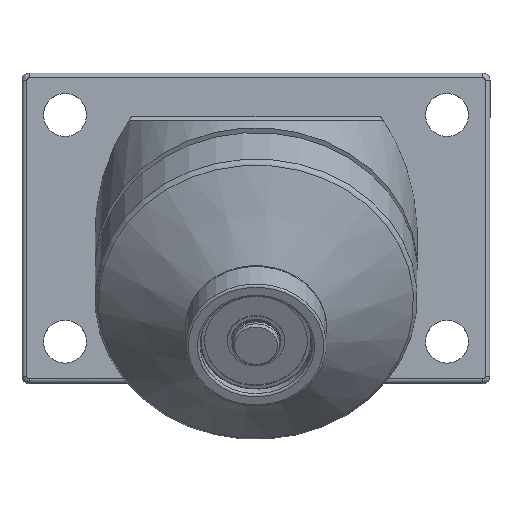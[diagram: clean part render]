
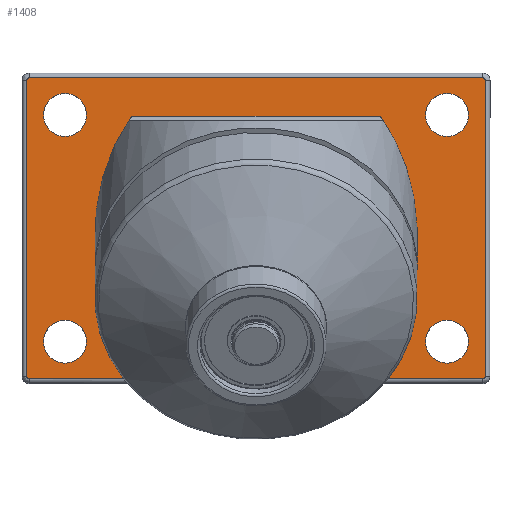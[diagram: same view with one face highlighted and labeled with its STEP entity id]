
A CAD part, top view. The second image highlights one B-rep face of the part: STEP entity #1408.
In plain terms, the highlighted planar face has unit normal (0, 0, 1).
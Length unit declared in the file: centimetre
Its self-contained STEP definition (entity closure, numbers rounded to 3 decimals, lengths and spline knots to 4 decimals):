
#14=LINE('',#2507,#39);
#16=LINE('',#2530,#41);
#17=LINE('',#2534,#42);
#18=LINE('',#2538,#43);
#19=LINE('',#2542,#44);
#20=LINE('',#2546,#45);
#39=VECTOR('',#1885,10.4136);
#41=VECTOR('',#1895,5.2336);
#42=VECTOR('',#1898,12.4);
#43=VECTOR('',#1901,19.);
#44=VECTOR('',#1904,12.4);
#45=VECTOR('',#1907,5.2336);
#65=ELLIPSE('',#1568,7.7942,6.75);
#66=ELLIPSE('',#1569,7.7942,6.75);
#67=ELLIPSE('',#1570,7.7942,6.75);
#68=ELLIPSE('',#1575,7.7942,6.75);
#166=PLANE('',#1567);
#229=FACE_BOUND('',#474,.T.);
#230=FACE_BOUND('',#475,.T.);
#231=FACE_BOUND('',#476,.T.);
#232=FACE_BOUND('',#477,.T.);
#320=FACE_OUTER_BOUND('',#473,.T.);
#473=EDGE_LOOP('',(#1051,#1052,#1053,#1054,#1055,#1056,#1057,#1058,#1059,
#1060,#1061,#1062,#1063,#1064));
#474=EDGE_LOOP('',(#1065));
#475=EDGE_LOOP('',(#1066));
#476=EDGE_LOOP('',(#1067));
#477=EDGE_LOOP('',(#1068));
#614=CIRCLE('',#1571,0.1);
#615=CIRCLE('',#1572,0.1);
#616=CIRCLE('',#1573,0.1);
#617=CIRCLE('',#1574,0.1);
#618=CIRCLE('',#1576,0.9);
#619=CIRCLE('',#1577,0.9);
#620=CIRCLE('',#1578,0.9);
#621=CIRCLE('',#1579,0.9);
#721=VERTEX_POINT('',#2493);
#722=VERTEX_POINT('',#2506);
#724=VERTEX_POINT('',#2523);
#725=VERTEX_POINT('',#2525);
#726=VERTEX_POINT('',#2527);
#727=VERTEX_POINT('',#2529);
#728=VERTEX_POINT('',#2531);
#729=VERTEX_POINT('',#2533);
#730=VERTEX_POINT('',#2535);
#731=VERTEX_POINT('',#2537);
#732=VERTEX_POINT('',#2539);
#733=VERTEX_POINT('',#2541);
#734=VERTEX_POINT('',#2543);
#735=VERTEX_POINT('',#2545);
#736=VERTEX_POINT('',#2548);
#737=VERTEX_POINT('',#2550);
#738=VERTEX_POINT('',#2552);
#739=VERTEX_POINT('',#2554);
#846=EDGE_CURVE('',#721,#722,#14,.T.);
#849=EDGE_CURVE('',#722,#724,#65,.T.);
#850=EDGE_CURVE('',#725,#721,#66,.T.);
#851=EDGE_CURVE('',#725,#726,#67,.T.);
#852=EDGE_CURVE('',#727,#726,#16,.T.);
#853=EDGE_CURVE('',#728,#727,#614,.T.);
#854=EDGE_CURVE('',#729,#728,#17,.T.);
#855=EDGE_CURVE('',#730,#729,#615,.T.);
#856=EDGE_CURVE('',#731,#730,#18,.T.);
#857=EDGE_CURVE('',#732,#731,#616,.T.);
#858=EDGE_CURVE('',#733,#732,#19,.T.);
#859=EDGE_CURVE('',#734,#733,#617,.T.);
#860=EDGE_CURVE('',#735,#734,#20,.T.);
#861=EDGE_CURVE('',#735,#724,#68,.T.);
#862=EDGE_CURVE('',#736,#736,#618,.T.);
#863=EDGE_CURVE('',#737,#737,#619,.T.);
#864=EDGE_CURVE('',#738,#738,#620,.T.);
#865=EDGE_CURVE('',#739,#739,#621,.T.);
#1051=ORIENTED_EDGE('',*,*,#849,.F.);
#1052=ORIENTED_EDGE('',*,*,#846,.F.);
#1053=ORIENTED_EDGE('',*,*,#850,.F.);
#1054=ORIENTED_EDGE('',*,*,#851,.T.);
#1055=ORIENTED_EDGE('',*,*,#852,.F.);
#1056=ORIENTED_EDGE('',*,*,#853,.F.);
#1057=ORIENTED_EDGE('',*,*,#854,.F.);
#1058=ORIENTED_EDGE('',*,*,#855,.F.);
#1059=ORIENTED_EDGE('',*,*,#856,.F.);
#1060=ORIENTED_EDGE('',*,*,#857,.F.);
#1061=ORIENTED_EDGE('',*,*,#858,.F.);
#1062=ORIENTED_EDGE('',*,*,#859,.F.);
#1063=ORIENTED_EDGE('',*,*,#860,.F.);
#1064=ORIENTED_EDGE('',*,*,#861,.T.);
#1065=ORIENTED_EDGE('',*,*,#862,.T.);
#1066=ORIENTED_EDGE('',*,*,#863,.T.);
#1067=ORIENTED_EDGE('',*,*,#864,.T.);
#1068=ORIENTED_EDGE('',*,*,#865,.T.);
#1408=ADVANCED_FACE('',(#320,#229,#230,#231,#232),#166,.T.);
#1567=AXIS2_PLACEMENT_3D('',#2522,#1887,#1888);
#1568=AXIS2_PLACEMENT_3D('',#2524,#1889,#1890);
#1569=AXIS2_PLACEMENT_3D('',#2526,#1891,#1892);
#1570=AXIS2_PLACEMENT_3D('',#2528,#1893,#1894);
#1571=AXIS2_PLACEMENT_3D('',#2532,#1896,#1897);
#1572=AXIS2_PLACEMENT_3D('',#2536,#1899,#1900);
#1573=AXIS2_PLACEMENT_3D('',#2540,#1902,#1903);
#1574=AXIS2_PLACEMENT_3D('',#2544,#1905,#1906);
#1575=AXIS2_PLACEMENT_3D('',#2547,#1908,#1909);
#1576=AXIS2_PLACEMENT_3D('',#2549,#1910,#1911);
#1577=AXIS2_PLACEMENT_3D('',#2551,#1912,#1913);
#1578=AXIS2_PLACEMENT_3D('',#2553,#1914,#1915);
#1579=AXIS2_PLACEMENT_3D('',#2555,#1916,#1917);
#1885=DIRECTION('',(-1.,0.,0.));
#1887=DIRECTION('center_axis',(0.,0.,
1.));
#1888=DIRECTION('ref_axis',(0.,-1.,0.));
#1889=DIRECTION('center_axis',(0.,0.,
1.));
#1890=DIRECTION('ref_axis',(0.,1.,0.));
#1891=DIRECTION('center_axis',(0.,0.,
1.));
#1892=DIRECTION('ref_axis',(0.,1.,0.));
#1893=DIRECTION('center_axis',(0.,0.,
-1.));
#1894=DIRECTION('ref_axis',(0.,-1.,0.));
#1895=DIRECTION('',(-1.,0.,0.));
#1896=DIRECTION('center_axis',(0.,0.,
-1.));
#1897=DIRECTION('ref_axis',(0.707,-0.707,0.));
#1898=DIRECTION('',(0.,-1.,0.));
#1899=DIRECTION('center_axis',(0.,0.,
-1.));
#1900=DIRECTION('ref_axis',(0.707,0.707,0.));
#1901=DIRECTION('',(1.,0.,0.));
#1902=DIRECTION('center_axis',(0.,0.,
-1.));
#1903=DIRECTION('ref_axis',(-0.707,0.707,0.));
#1904=DIRECTION('',(0.,1.,0.));
#1905=DIRECTION('center_axis',(0.,0.,
-1.));
#1906=DIRECTION('ref_axis',(-0.707,-0.707,0.));
#1907=DIRECTION('',(-1.,0.,0.));
#1908=DIRECTION('center_axis',(0.,0.,
-1.));
#1909=DIRECTION('ref_axis',(0.,-1.,0.));
#1910=DIRECTION('center_axis',(0.,0.,
-1.));
#1911=DIRECTION('ref_axis',(1.,0.,0.));
#1912=DIRECTION('center_axis',(0.,0.,
-1.));
#1913=DIRECTION('ref_axis',(1.,0.,0.));
#1914=DIRECTION('center_axis',(0.,0.,
-1.));
#1915=DIRECTION('ref_axis',(1.,0.,0.));
#1916=DIRECTION('center_axis',(0.,0.,
-1.));
#1917=DIRECTION('ref_axis',(1.,0.,0.));
#2493=CARTESIAN_POINT('',(5.2068,7.001,1.8));
#2506=CARTESIAN_POINT('',(-5.2068,7.001,1.8));
#2507=CARTESIAN_POINT('',(-3.9724,7.001,1.8));
#2522=CARTESIAN_POINT('Origin',(0.,2.301,1.8));
#2523=CARTESIAN_POINT('',(-4.7448,-3.5028,1.8));
#2524=CARTESIAN_POINT('Origin',(0.,2.0409,1.8));
#2525=CARTESIAN_POINT('',(4.7448,-3.5028,1.8));
#2526=CARTESIAN_POINT('Origin',(0.,2.0409,1.8));
#2527=CARTESIAN_POINT('',(4.2664,-3.999,1.8));
#2528=CARTESIAN_POINT('Origin',(0.,2.0409,
1.8));
#2529=CARTESIAN_POINT('',(9.5,-3.999,1.8));
#2530=CARTESIAN_POINT('',(-4.9,-3.999,1.8));
#2531=CARTESIAN_POINT('',(9.6,-3.899,1.8));
#2532=CARTESIAN_POINT('Origin',(9.5,-3.899,1.8));
#2533=CARTESIAN_POINT('',(9.6,8.501,1.8));
#2534=CARTESIAN_POINT('',(9.6,-0.949,1.8));
#2535=CARTESIAN_POINT('',(9.5,8.601,1.8));
#2536=CARTESIAN_POINT('Origin',(9.5,8.501,1.8));
#2537=CARTESIAN_POINT('',(-9.5,8.601,1.8));
#2538=CARTESIAN_POINT('',(4.9,8.601,1.8));
#2539=CARTESIAN_POINT('',(-9.6,8.501,1.8));
#2540=CARTESIAN_POINT('Origin',(-9.5,8.501,1.8));
#2541=CARTESIAN_POINT('',(-9.6,-3.899,1.8));
#2542=CARTESIAN_POINT('',(-9.6,5.551,1.8));
#2543=CARTESIAN_POINT('',(-9.5,-3.999,1.8));
#2544=CARTESIAN_POINT('Origin',(-9.5,-3.899,1.8));
#2545=CARTESIAN_POINT('',(-4.2664,-3.999,1.8));
#2546=CARTESIAN_POINT('',(-4.9,-3.999,1.8));
#2547=CARTESIAN_POINT('Origin',(0.,2.0409,
1.8));
#2548=CARTESIAN_POINT('',(-7.1,-2.449,1.8));
#2549=CARTESIAN_POINT('Origin',(-8.,-2.449,1.8));
#2550=CARTESIAN_POINT('',(-7.1,7.051,1.8));
#2551=CARTESIAN_POINT('Origin',(-8.,7.051,1.8));
#2552=CARTESIAN_POINT('',(8.9,7.051,1.8));
#2553=CARTESIAN_POINT('Origin',(8.,7.051,1.8));
#2554=CARTESIAN_POINT('',(8.9,-2.449,1.8));
#2555=CARTESIAN_POINT('Origin',(8.,-2.449,1.8));
